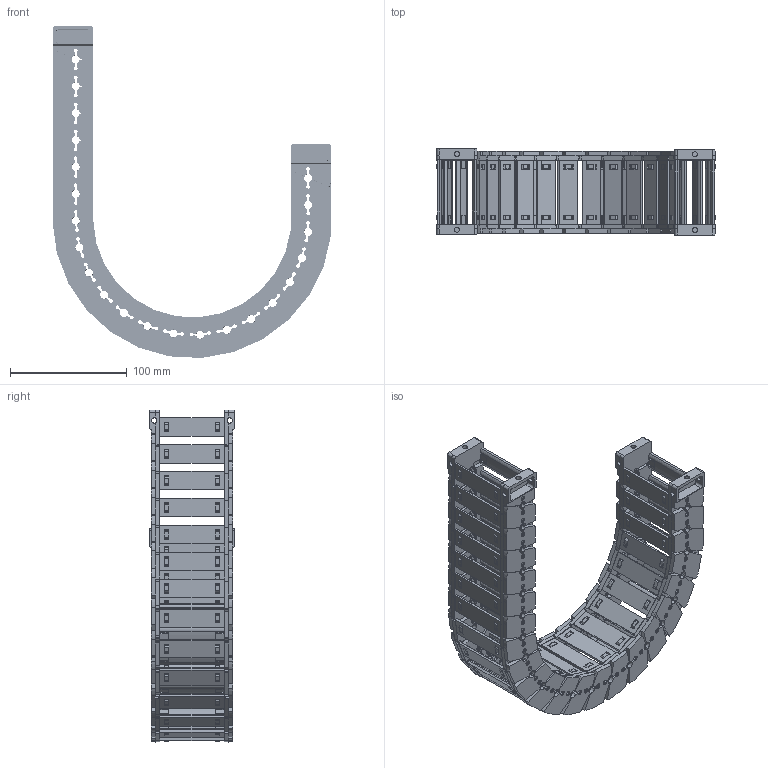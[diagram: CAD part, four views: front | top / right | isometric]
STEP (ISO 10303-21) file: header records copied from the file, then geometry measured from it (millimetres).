
FILE_DESCRIPTION((''),'2;1');
FILE_NAME('JY-28X55-R100_ASM','2026-03-25T19:27:41',('admin'),(''),'CREO PARAMETRIC BY PTC INC, 2021023','CREO PARAMETRIC BY PTC INC, 2021023','');
FILE_SCHEMA(('CONFIG_CONTROL_DESIGN'));
Length unit declared in the file: millimetre
Products named in the file (11): 28XL-L; 25-35XL-YP; 28XL-R; ASM0001_ASM; 28-LTT-A-L; 28-LTT-A-R; 28XL-LTT-A_ASM; 28-LTT-B-L; 28-LTT-B-R; 28XL-LTT-B_ASM; JY-28X55-R100_ASM
Assembly tree (35 placements, depth 3):
  JY-28X55-R100_ASM
    ASM0001_ASM  x21
      28XL-L
      25-35XL-YP
      28XL-R
    28XL-LTT-A_ASM
      28-LTT-A-L
      25-35XL-YP  x2
      28-LTT-A-R
    28XL-LTT-B_ASM
      28-LTT-B-L
      25-35XL-YP  x2
      28-LTT-B-R
Bounding box: 238.21 x 73.5 x 283.78 mm (x, y, z)
Volume: 360229.5 mm3; surface area: 261687.7 mm2
Topology: 92 solids, 92 shells, 7454 faces, 22156 edges, 14794 vertices
Faces by surface type: plane 4887, cone 1339, cylinder 1072, bspline 156
Entity records: 29119 total; most frequent: CARTESIAN_POINT 9493, ORIENTED_EDGE 4352, DIRECTION 3661, EDGE_CURVE 2176, VERTEX_POINT 1454, VECTOR 1365, LINE 1365, AXIS2_PLACEMENT_3D 1148
